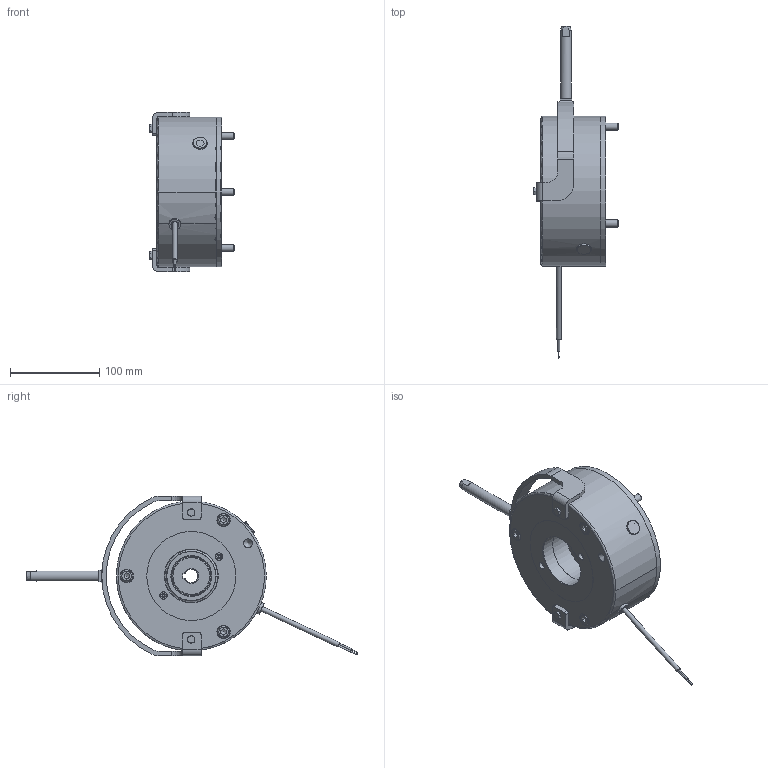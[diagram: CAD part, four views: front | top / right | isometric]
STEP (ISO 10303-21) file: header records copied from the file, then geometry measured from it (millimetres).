
FILE_DESCRIPTION(/* description */ (''),/* implementation_level */ '2;1');
FILE_NAME(/* name */ 'C:\SapWorkDir\Inventor\IP1\ConvertTempPath\5028804_IPT_000.ipt.stp',/* time_stamp */ '2020-09-18T11:39:10+02:00',/* author */ ('STRATE'),/* organization */ (''),/* preprocessor_version */ 'ST-DEVELOPER v17',/* originating_system */ 'Autodesk Inventor 2018',/* authorisation */ '');
FILE_SCHEMA (('AUTOMOTIVE_DESIGN { 1 0 10303 214 3 1 1 }'));
Length unit declared in the file: millimetre
Products named in the file (1): 5028804
Bounding box: 95.6 x 372.51 x 179 mm (x, y, z)
Volume: 1204750.2 mm3; surface area: 213315.3 mm2
Topology: 4 solids, 4 shells, 553 faces, 1541 edges, 1038 vertices
Faces by surface type: cylinder 351, plane 137, cone 41, torus 24
Full cylindrical faces by diameter (mm): 0.01 x1, 1 x2, 1.85 x2, 5 x2, 5.3 x1, 6.4 x2, 6.6 x1, 6.9 x2, 7 x2, 8 x3, 8.376 x2, 9 x3, 9.2 x2, 10 x1, 12 x1, 13 x3, 13.2 x1, 13.9 x3, 15 x3, 16 x1, 60 x1, 60.5 x1, 70 x1, 79.5 x2, 100 x1, 124 x1, 159 x1, 165.2 x2, 168 x1
Entity records: 19707 total; most frequent: CARTESIAN_POINT 4846, ORIENTED_EDGE 3082, DIRECTION 2915, EDGE_CURVE 1541, AXIS2_PLACEMENT_3D 1178, VERTEX_POINT 1038, CIRCLE 624, EDGE_LOOP 621
